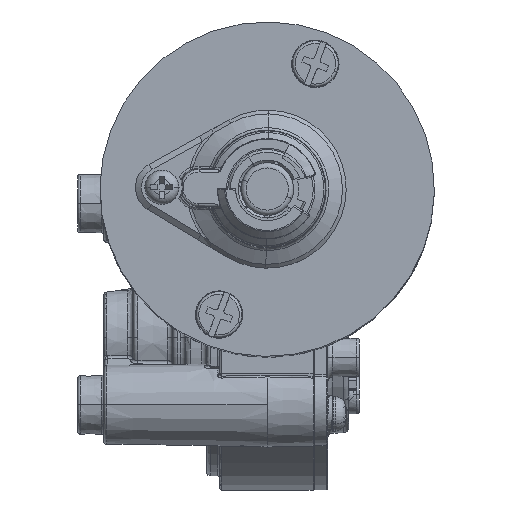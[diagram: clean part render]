
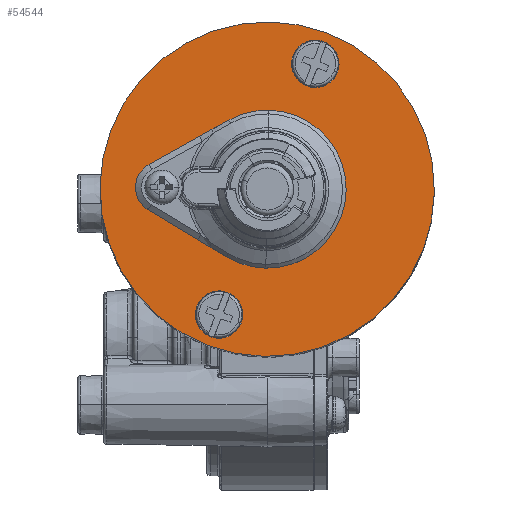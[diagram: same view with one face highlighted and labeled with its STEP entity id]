
A CAD part, top view. The second image highlights one B-rep face of the part: STEP entity #54544.
In plain terms, the highlighted planar face has unit normal (0, 0, 1).
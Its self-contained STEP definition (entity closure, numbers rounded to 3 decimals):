
#1497 = CIRCLE ( 'NONE', #58836, 1.65 ) ;
#2229 = CARTESIAN_POINT ( 'NONE',  ( -33.206, 26.877, 214. ) ) ;
#3250 = DIRECTION ( 'NONE',  ( 0., 0., 1. ) ) ;
#3387 = DIRECTION ( 'NONE',  ( -0.934, 0.358, 0. ) ) ;
#3753 = EDGE_CURVE ( 'NONE', #53014, #74072, #45637, .T. ) ;
#6755 = ORIENTED_EDGE ( 'NONE', *, *, #3753, .F. ) ;
#8277 = CARTESIAN_POINT ( 'NONE',  ( 8.572, 10.84, 214. ) ) ;
#8467 = CIRCLE ( 'NONE', #58536, 31.75 ) ;
#8943 = CARTESIAN_POINT ( 'NONE',  ( 1.373, 40.917, 214. ) ) ;
#9165 = EDGE_LOOP ( 'NONE', ( #6755, #21881 ) ) ;
#9244 = DIRECTION ( 'NONE',  ( 0., 0., 1. ) ) ;
#9301 = AXIS2_PLACEMENT_3D ( 'NONE', #38402, #3250, #44253 ) ;
#9523 = DIRECTION ( 'NONE',  ( 0., 0., -1. ) ) ;
#9859 = AXIS2_PLACEMENT_3D ( 'NONE', #44309, #9244, #50142 ) ;
#10099 = CARTESIAN_POINT ( 'NONE',  ( 5.574, 39.305, 214. ) ) ;
#12293 = CARTESIAN_POINT ( 'NONE',  ( -25.102, 16.439, 214. ) ) ;
#12741 = ORIENTED_EDGE ( 'NONE', *, *, #48598, .T. ) ;
#13817 = ORIENTED_EDGE ( 'NONE', *, *, #51912, .T. ) ;
#13924 = VERTEX_POINT ( 'NONE', #41085 ) ;
#14414 = CARTESIAN_POINT ( 'NONE',  ( 5.574, 39.305, 214. ) ) ;
#15086 = AXIS2_PLACEMENT_3D ( 'NONE', #57275, #22247, #63128 ) ;
#15956 = FACE_OUTER_BOUND ( 'NONE', #37806, .T. ) ;
#15980 = DIRECTION ( 'NONE',  ( 0.934, -0.358, 0. ) ) ;
#16678 = EDGE_CURVE ( 'NONE', #13924, #34233, #60300, .T. ) ;
#19231 = CARTESIAN_POINT ( 'NONE',  ( -23.562, 15.848, 214. ) ) ;
#20325 = DIRECTION ( 'NONE',  ( 0.934, -0.358, 0. ) ) ;
#21471 = ORIENTED_EDGE ( 'NONE', *, *, #32180, .F. ) ;
#21881 = ORIENTED_EDGE ( 'NONE', *, *, #46138, .F. ) ;
#22247 = DIRECTION ( 'NONE',  ( 0., 0., 1. ) ) ;
#23602 = CARTESIAN_POINT ( 'NONE',  ( 26.077, 4.12, 214. ) ) ;
#25143 = DIRECTION ( 'NONE',  ( 0.934, -0.358, 0. ) ) ;
#26175 = DIRECTION ( 'NONE',  ( 0., 0., 1. ) ) ;
#26486 = CIRCLE ( 'NONE', #37696, 13. ) ;
#29237 = CARTESIAN_POINT ( 'NONE',  ( -3.565, 15.499, 214. ) ) ;
#30235 = CARTESIAN_POINT ( 'NONE',  ( 9.775, 37.692, 214. ) ) ;
#31039 = EDGE_CURVE ( 'NONE', #52284, #40281, #70450, .T. ) ;
#31573 = FACE_BOUND ( 'NONE', #9165, .T. ) ;
#31668 = CIRCLE ( 'NONE', #54056, 13. ) ;
#32180 = EDGE_CURVE ( 'NONE', #37071, #73841, #35484, .T. ) ;
#32782 = CARTESIAN_POINT ( 'NONE',  ( -3.565, 15.499, 214. ) ) ;
#34233 = VERTEX_POINT ( 'NONE', #75885 ) ;
#35136 = DIRECTION ( 'NONE',  ( 0.934, -0.358, 0. ) ) ;
#35484 = CIRCLE ( 'NONE', #9859, 1.65 ) ;
#35825 = AXIS2_PLACEMENT_3D ( 'NONE', #32782, #73635, #38662 ) ;
#36391 = CIRCLE ( 'NONE', #55960, 4.5 ) ;
#37071 = VERTEX_POINT ( 'NONE', #12293 ) ;
#37696 = AXIS2_PLACEMENT_3D ( 'NONE', #73527, #38553, #3387 ) ;
#37806 = EDGE_LOOP ( 'NONE', ( #57871, #51072 ) ) ;
#38402 = CARTESIAN_POINT ( 'NONE',  ( -3.565, 15.499, 214. ) ) ;
#38553 = DIRECTION ( 'NONE',  ( 0., 0., -1. ) ) ;
#38662 = DIRECTION ( 'NONE',  ( 0.934, -0.358, 0. ) ) ;
#39248 = CIRCLE ( 'NONE', #15086, 4.5 ) ;
#40281 = VERTEX_POINT ( 'NONE', #23602 ) ;
#40773 = AXIS2_PLACEMENT_3D ( 'NONE', #10099, #50951, #15980 ) ;
#41085 = CARTESIAN_POINT ( 'NONE',  ( -16.904, -6.695, 214. ) ) ;
#44253 = DIRECTION ( 'NONE',  ( 0.934, -0.358, 0. ) ) ;
#44309 = CARTESIAN_POINT ( 'NONE',  ( -23.562, 15.848, 214. ) ) ;
#44555 = CARTESIAN_POINT ( 'NONE',  ( -3.565, 15.499, 214. ) ) ;
#45040 = CARTESIAN_POINT ( 'NONE',  ( -15.701, 20.157, 214. ) ) ;
#45214 = ORIENTED_EDGE ( 'NONE', *, *, #16678, .F. ) ;
#45578 = EDGE_LOOP ( 'NONE', ( #13817, #12741 ) ) ;
#45637 = CIRCLE ( 'NONE', #40773, 4.5 ) ;
#46138 = EDGE_CURVE ( 'NONE', #74072, #53014, #36391, .T. ) ;
#46157 = VERTEX_POINT ( 'NONE', #8277 ) ;
#47070 = FACE_BOUND ( 'NONE', #68333, .T. ) ;
#48598 = EDGE_CURVE ( 'NONE', #46157, #49202, #26486, .T. ) ;
#49202 = VERTEX_POINT ( 'NONE', #45040 ) ;
#49843 = PLANE ( 'NONE',  #9301 ) ;
#50142 = DIRECTION ( 'NONE',  ( 0.934, -0.358, 0. ) ) ;
#50404 = DIRECTION ( 'NONE',  ( -0.934, 0.358, 0. ) ) ;
#50951 = DIRECTION ( 'NONE',  ( 0., 0., 1. ) ) ;
#50954 = EDGE_LOOP ( 'NONE', ( #64304, #45214 ) ) ;
#51072 = ORIENTED_EDGE ( 'NONE', *, *, #62481, .T. ) ;
#51912 = EDGE_CURVE ( 'NONE', #49202, #46157, #31668, .T. ) ;
#52284 = VERTEX_POINT ( 'NONE', #2229 ) ;
#53014 = VERTEX_POINT ( 'NONE', #30235 ) ;
#54056 = AXIS2_PLACEMENT_3D ( 'NONE', #44555, #9523, #50404 ) ;
#54544 = ADVANCED_FACE ( 'NONE', ( #47070, #31573, #62607, #15956, #60772 ), #49843, .T. ) ;
#55328 = DIRECTION ( 'NONE',  ( 0., 0., 1. ) ) ;
#55960 = AXIS2_PLACEMENT_3D ( 'NONE', #14414, #55328, #20325 ) ;
#57275 = CARTESIAN_POINT ( 'NONE',  ( -12.703, -8.308, 214. ) ) ;
#57871 = ORIENTED_EDGE ( 'NONE', *, *, #31039, .T. ) ;
#58536 = AXIS2_PLACEMENT_3D ( 'NONE', #29237, #70047, #35136 ) ;
#58836 = AXIS2_PLACEMENT_3D ( 'NONE', #19231, #60138, #25143 ) ;
#59897 = EDGE_CURVE ( 'NONE', #73841, #37071, #1497, .T. ) ;
#60138 = DIRECTION ( 'NONE',  ( 0., 0., 1. ) ) ;
#60300 = CIRCLE ( 'NONE', #70016, 4.5 ) ;
#60772 = FACE_BOUND ( 'NONE', #45578, .T. ) ;
#61153 = CARTESIAN_POINT ( 'NONE',  ( -12.703, -8.308, 214. ) ) ;
#62481 = EDGE_CURVE ( 'NONE', #40281, #52284, #8467, .T. ) ;
#62607 = FACE_BOUND ( 'NONE', #50954, .T. ) ;
#63128 = DIRECTION ( 'NONE',  ( 0.934, -0.358, 0. ) ) ;
#64114 = EDGE_CURVE ( 'NONE', #34233, #13924, #39248, .T. ) ;
#64304 = ORIENTED_EDGE ( 'NONE', *, *, #64114, .F. ) ;
#66998 = DIRECTION ( 'NONE',  ( 0.934, -0.358, 0. ) ) ;
#68333 = EDGE_LOOP ( 'NONE', ( #72539, #21471 ) ) ;
#70016 = AXIS2_PLACEMENT_3D ( 'NONE', #61153, #26175, #66998 ) ;
#70047 = DIRECTION ( 'NONE',  ( 0., 0., 1. ) ) ;
#70450 = CIRCLE ( 'NONE', #35825, 31.75 ) ;
#72539 = ORIENTED_EDGE ( 'NONE', *, *, #59897, .F. ) ;
#72821 = CARTESIAN_POINT ( 'NONE',  ( -22.021, 15.256, 214. ) ) ;
#73527 = CARTESIAN_POINT ( 'NONE',  ( -3.565, 15.499, 214. ) ) ;
#73635 = DIRECTION ( 'NONE',  ( 0., 0., 1. ) ) ;
#73841 = VERTEX_POINT ( 'NONE', #72821 ) ;
#74072 = VERTEX_POINT ( 'NONE', #8943 ) ;
#75885 = CARTESIAN_POINT ( 'NONE',  ( -8.502, -9.92, 214. ) ) ;
